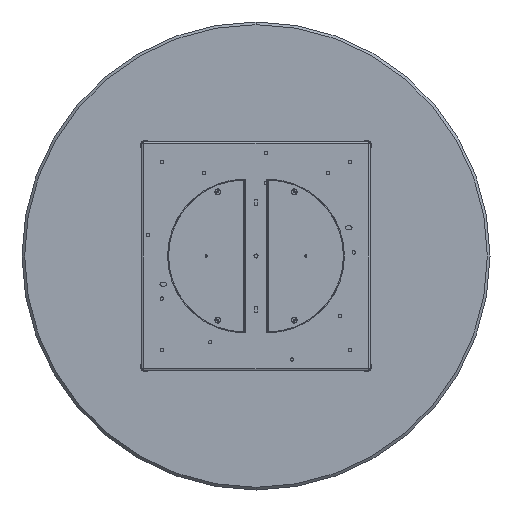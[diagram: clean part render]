
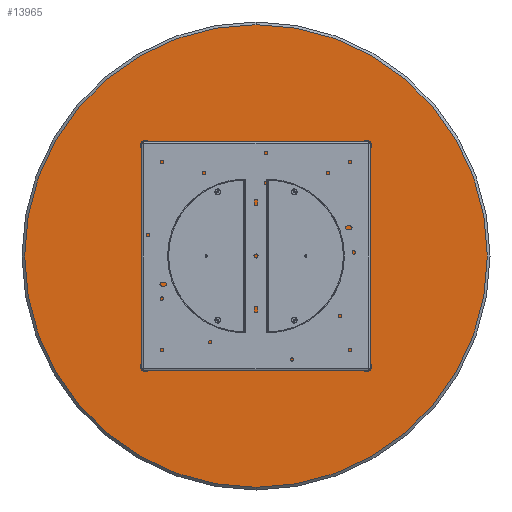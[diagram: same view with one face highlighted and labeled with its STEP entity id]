
A CAD part, front view. The second image highlights one B-rep face of the part: STEP entity #13965.
In plain terms, the highlighted planar face has unit normal (0, -1, 0).
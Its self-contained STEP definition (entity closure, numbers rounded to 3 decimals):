
#413 = AXIS2_PLACEMENT_3D ( 'NONE', #3200, #11576, #12552 ) ;
#3180 = VERTEX_POINT ( 'NONE', #10097 ) ;
#3200 = CARTESIAN_POINT ( 'NONE',  ( 0., 0., 0. ) ) ;
#3319 = DIRECTION ( 'NONE',  ( 0., 0., -1. ) ) ;
#3395 = EDGE_CURVE ( 'NONE', #3180, #12443, #11965, .T. ) ;
#5870 = AXIS2_PLACEMENT_3D ( 'NONE', #10110, #14976, #3319 ) ;
#6024 = ORIENTED_EDGE ( 'NONE', *, *, #8884, .T. ) ;
#6543 = FACE_OUTER_BOUND ( 'NONE', #13279, .T. ) ;
#6616 = PLANE ( 'NONE',  #5870 ) ;
#8192 = CIRCLE ( 'NONE', #413, 692. ) ;
#8884 = EDGE_CURVE ( 'NONE', #12443, #3180, #8192, .T. ) ;
#9911 = ORIENTED_EDGE ( 'NONE', *, *, #3395, .T. ) ;
#10097 = CARTESIAN_POINT ( 'NONE',  ( 0., 0., 692. ) ) ;
#10110 = CARTESIAN_POINT ( 'NONE',  ( 0., 0., 0. ) ) ;
#10624 = CARTESIAN_POINT ( 'NONE',  ( 0., 0., 0. ) ) ;
#10695 = DIRECTION ( 'NONE',  ( 0., -1., 0. ) ) ;
#10747 = AXIS2_PLACEMENT_3D ( 'NONE', #10624, #10695, #11837 ) ;
#11576 = DIRECTION ( 'NONE',  ( 0., -1., 0. ) ) ;
#11837 = DIRECTION ( 'NONE',  ( 0., 0., -1. ) ) ;
#11965 = CIRCLE ( 'NONE', #10747, 692. ) ;
#12443 = VERTEX_POINT ( 'NONE', #14382 ) ;
#12552 = DIRECTION ( 'NONE',  ( 0., 0., -1. ) ) ;
#13279 = EDGE_LOOP ( 'NONE', ( #9911, #6024 ) ) ;
#13965 = ADVANCED_FACE ( 'NONE', ( #6543 ), #6616, .T. ) ;
#14382 = CARTESIAN_POINT ( 'NONE',  ( 0., 0., -692. ) ) ;
#14976 = DIRECTION ( 'NONE',  ( 0., -1., 0. ) ) ;
